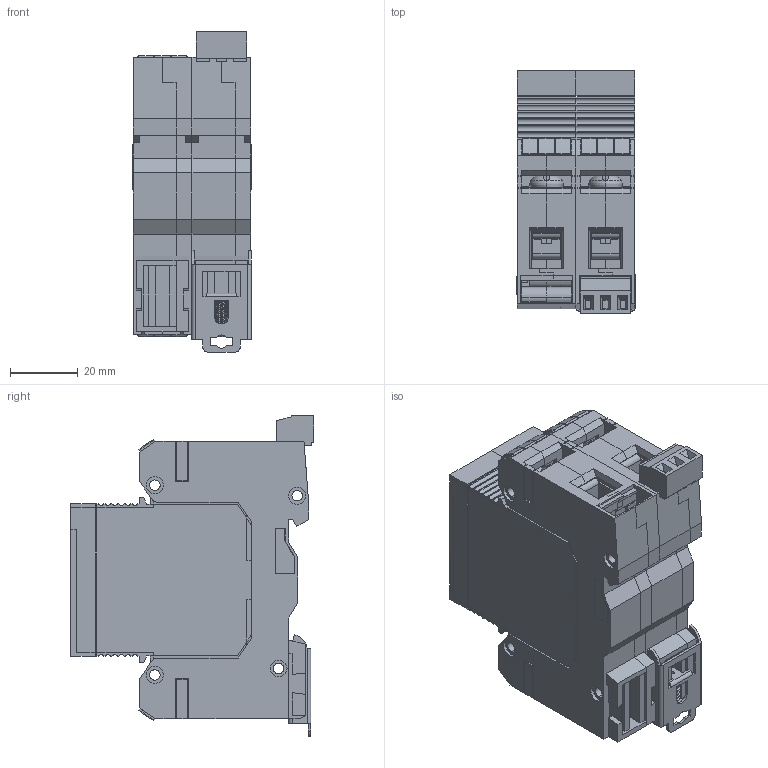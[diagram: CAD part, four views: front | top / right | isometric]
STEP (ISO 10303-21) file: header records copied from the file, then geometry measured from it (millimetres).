
FILE_DESCRIPTION (( 'STEP AP214' ), '1' );
FILE_NAME ('OptiIDn OM 2 ïîëþñà ñ ñèãíàëèçàòîðîì.STEP', '2022-12-05T08:16:11', ( '' ), ( '' ), 'SwSTEP 2.0', 'SolidWorks 2018', '' );
FILE_SCHEMA (( 'AUTOMOTIVE_DESIGN' ));
Length unit declared in the file: millimetre
Products named in the file (23): 署赅 01 矬耱铋; Îñíîâàíèå ìîäóëÿ Ë 50-094(ïóñòîé ñ èçìåíåíûì ãàáàðèòîì)_„«ï ç¥àâ¥¦ ; Ñüåìíûé ìîäóëü 01 ïóñòîé; OptiIDn OM 2 ïîëþñà ñ ñèãíàëèçàòîðîì; Êîëîäêà 03-039 ïîä íîâûé ãàáàðèòû; ﾂ鏆鮏 01; Ïåðåìû÷êà 03-025; Ïëàñòèíà 52-040_Š2; Ìåòêà 21-086; Âûâîä 53-027 îáðåçàíûé äëÿ ñàéòà; Çàãëóøêà ìîäóëÿ Ï 50-083; 扻豵鵨 01 瀀嚦鍣; Îñíîâàíèå ìîäóëÿ Ï 50-095 ïóñòîé; Êîäèðîâî÷íàÿ âñòàâêà; 鎔艜 03-024; Ïðóæèíà çàùåëêè 13-007; Âñòàâêà êîäèðîâî÷íàÿ 50-082; Çàùåëêà 11-010; 桎蝂鳪鳿僗闉 47-016 瀀嚦鍣; Çàãëóøêà ìîäóëÿ Ë 50-084; Êîëîäêà øòåêåðíàÿ 540-2022 21-084
Assembly tree (38 placements, depth 3):
  OptiIDn OM 2 ïîëþñà ñ ñèãíàëèçàòîðîì
    Îñíîâàíèå ìîäóëÿ Ë 50-094(ïóñòîé ñ èçìåíåíûì ãàáàðèòîì)_„«ï ç¥àâ¥¦ 
    Îñíîâàíèå ìîäóëÿ Ï 50-095 ïóñòîé
    Âûâîä 53-027 îáðåçàíûé äëÿ ñàéòà  x4
    Çàãëóøêà ìîäóëÿ Ë 50-084
    Êîëîäêà 03-039 ïîä íîâûé ãàáàðèòû  x4
    Âñòàâêà êîäèðîâî÷íàÿ 50-082  x2
    鎔艜 03-024  x4
    Ïëàñòèíà 52-040_Š2
    Ìåòêà 21-086  x4
    Ñüåìíûé ìîäóëü 01 ïóñòîé  x2
      扻豵鵨 01 瀀嚦鍣
      署赅 01 矬耱铋
      Êîäèðîâî÷íàÿ âñòàâêà
      ﾂ鏆鮏 01
      Ìåòêà 21-086
    桎蝂鳪鳿僗闉 47-016 瀀嚦鍣
    Êîëîäêà øòåêåðíàÿ 540-2022 21-084
    Çàùåëêà 11-010
    Ïðóæèíà çàùåëêè 13-007
    Îñíîâàíèå ìîäóëÿ Ï 50-095 ïóñòîé
    Îñíîâàíèå ìîäóëÿ Ë 50-094(ïóñòîé ñ èçìåíåíûì ãàáàðèòîì)_„«ï ç¥àâ¥¦ 
    Çàãëóøêà ìîäóëÿ Ï 50-083
    Ïåðåìû÷êà 03-025
Bounding box: 35 x 71.88 x 94.6 mm (x, y, z)
Volume: 59688.1 mm3; surface area: 106647.4 mm2
Topology: 42 solids, 42 shells, 4299 faces, 11937 edges, 7772 vertices
Faces by surface type: plane 3493, cylinder 762, torus 16, bspline 14, cone 14
Entity records: 89258 total; most frequent: CARTESIAN_POINT 17358, ORIENTED_EDGE 14836, DIRECTION 13615, EDGE_CURVE 7418, LINE 6485, VECTOR 6485, VERTEX_POINT 4856, AXIS2_PLACEMENT_3D 3565
